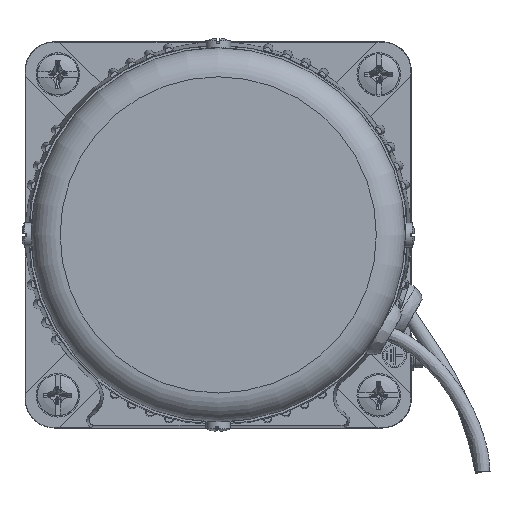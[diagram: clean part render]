
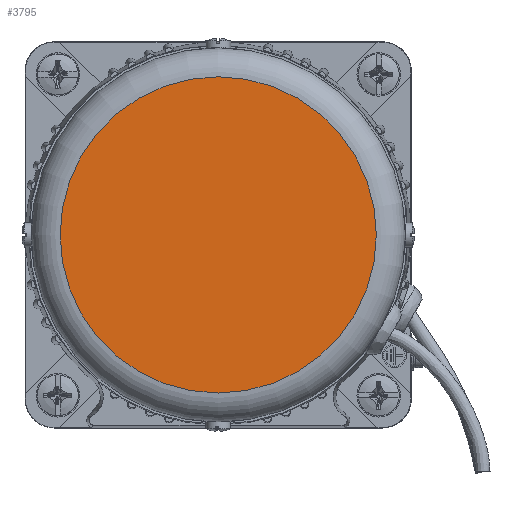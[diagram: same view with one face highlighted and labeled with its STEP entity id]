
A CAD part, left-side view. The second image highlights one B-rep face of the part: STEP entity #3795.
In plain terms, the highlighted planar face has unit normal (-1, 0, 0).
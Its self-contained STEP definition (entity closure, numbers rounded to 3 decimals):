
#3795=ADVANCED_FACE('',(#5200),#4838,.F.);
#4838=PLANE('',#17035);
#5200=FACE_OUTER_BOUND('',#6039,.T.);
#6039=EDGE_LOOP('',(#7323));
#7323=ORIENTED_EDGE('',*,*,#13885,.F.);
#12231=VERTEX_POINT('',#21439);
#13885=EDGE_CURVE('',#12231,#12231,#16469,.T.);
#16469=CIRCLE('',#17034,32.75);
#17034=AXIS2_PLACEMENT_3D('',#21438,#18352,#18353);
#17035=AXIS2_PLACEMENT_3D('',#21440,#18354,#18355);
#18352=DIRECTION('',(1.,0.,0.));
#18353=DIRECTION('',(0.,0.,-1.));
#18354=DIRECTION('',(1.,0.,0.));
#18355=DIRECTION('',(0.,0.,-1.));
#21438=CARTESIAN_POINT('',(-127.5,40.,40.));
#21439=CARTESIAN_POINT('',(-127.5,40.,7.25));
#21440=CARTESIAN_POINT('',(-127.5,40.,40.));
